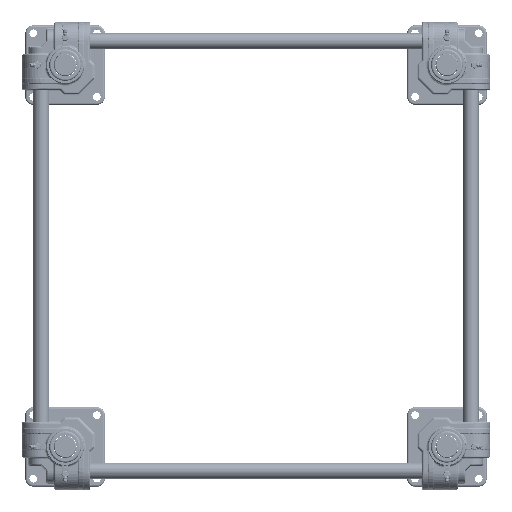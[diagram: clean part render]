
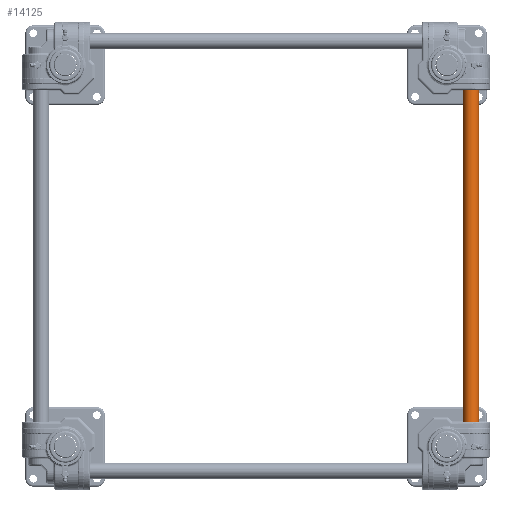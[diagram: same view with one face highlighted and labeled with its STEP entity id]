
A CAD part, top view. The second image highlights one B-rep face of the part: STEP entity #14125.
In plain terms, the highlighted cylindrical face has radius 12.5 mm (diameter 25 mm), a full revolution.
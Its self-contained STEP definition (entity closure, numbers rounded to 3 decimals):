
#14125=ADVANCED_FACE('',(#35581,#35582),#35583,.T.);
#35581=FACE_OUTER_BOUND('',#71124,.T.);
#35582=FACE_OUTER_BOUND('',#71125,.T.);
#35583=CYLINDRICAL_SURFACE('',#71126,12.5);
#71124=EDGE_LOOP('',(#156334));
#71125=EDGE_LOOP('',(#156335));
#71126=AXIS2_PLACEMENT_3D('',#156336,#156337,#156338);
#156334=ORIENTED_EDGE('',*,*,#183761,.T.);
#156335=ORIENTED_EDGE('',*,*,#183758,.T.);
#156336=CARTESIAN_POINT('',(336.808,0.0,50.0));
#156337=DIRECTION('',(0.0,0.0,-1.0));
#156338=DIRECTION('',(-1.0,0.0,0.0));
#183758=EDGE_CURVE('',#229138,#229138,#229139,.F.);
#183761=EDGE_CURVE('',#229144,#229144,#229145,.T.);
#229138=VERTEX_POINT('',#320320);
#229139=CIRCLE('',#320321,12.5);
#229144=VERTEX_POINT('',#320326);
#229145=CIRCLE('',#320327,12.5);
#320320=CARTESIAN_POINT('',(349.308,0.0,49.0));
#320321=AXIS2_PLACEMENT_3D('',#351212,#351213,#351214);
#320326=CARTESIAN_POINT('',(349.308,0.0,-591.0));
#320327=AXIS2_PLACEMENT_3D('',#351221,#351222,#351223);
#351212=CARTESIAN_POINT('',(336.808,0.0,49.0));
#351213=DIRECTION('',(0.0,0.0,1.0));
#351214=DIRECTION('',(1.0,0.0,0.0));
#351221=CARTESIAN_POINT('',(336.808,0.0,-591.0));
#351222=DIRECTION('',(0.0,0.0,1.0));
#351223=DIRECTION('',(1.0,0.0,0.0));
